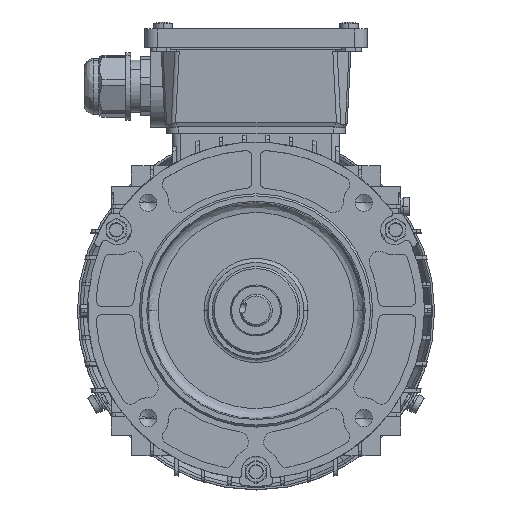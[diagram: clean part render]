
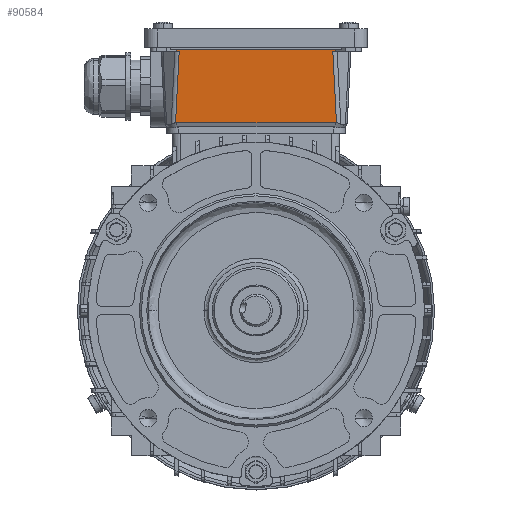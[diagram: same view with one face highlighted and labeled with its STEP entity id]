
A CAD part, top view. The second image highlights one B-rep face of the part: STEP entity #90584.
In plain terms, the highlighted planar face has unit normal (0, -0.05, 0.999).
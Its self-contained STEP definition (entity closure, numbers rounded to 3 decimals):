
#5028 = LINE ( 'NONE', #5106, #94640 ) ;
#5067 = DIRECTION ( 'NONE',  ( 1., 0., 0. ) ) ;
#5106 = CARTESIAN_POINT ( 'NONE',  ( -145.167, 147.911, 128.642 ) ) ;
#5433 = CARTESIAN_POINT ( 'NONE',  ( -119.239, 112.911, 126.892 ) ) ;
#5435 = CARTESIAN_POINT ( 'NONE',  ( -145.167, 112.911, 126.892 ) ) ;
#5462 = LINE ( 'NONE', #5435, #94777 ) ;
#5485 = DIRECTION ( 'NONE',  ( -1., 0., 0. ) ) ;
#5510 = CARTESIAN_POINT ( 'NONE',  ( -119.202, 112.911, 126.892 ) ) ;
#5513 = CARTESIAN_POINT ( 'NONE',  ( -119.276, 112.911, 126.892 ) ) ;
#5519 = CARTESIAN_POINT ( 'NONE',  ( -119.313, 112.913, 126.893 ) ) ;
#5531 = CARTESIAN_POINT ( 'NONE',  ( -40.595, 112.911, 126.892 ) ) ;
#5538 = CARTESIAN_POINT ( 'NONE',  ( -40.558, 112.911, 126.892 ) ) ;
#5583 = CARTESIAN_POINT ( 'NONE',  ( -40.521, 112.913, 126.893 ) ) ;
#5617 = CARTESIAN_POINT ( 'NONE',  ( -40.631, 112.911, 126.892 ) ) ;
#5800 = DIRECTION ( 'NONE',  ( 0.05, -0.998, -0.05 ) ) ;
#5803 = LINE ( 'NONE', #5806, #94912 ) ;
#5806 = CARTESIAN_POINT ( 'NONE',  ( -40.19, 106.29, 126.561 ) ) ;
#5821 = LINE ( 'NONE', #5828, #93227 ) ;
#5827 = DIRECTION ( 'NONE',  ( -0.05, -0.998, -0.05 ) ) ;
#5828 = CARTESIAN_POINT ( 'NONE',  ( -145.167, 147.911, 128.642 ) ) ;
#5832 = LINE ( 'NONE', #5849, #93202 ) ;
#5849 = CARTESIAN_POINT ( 'NONE',  ( -118.76, 148.888, 128.691 ) ) ;
#5876 = DIRECTION ( 'NONE',  ( 1., 0., 0. ) ) ;
#5884 = CARTESIAN_POINT ( 'NONE',  ( -41.025, 147.911, 128.642 ) ) ;
#5885 = DIRECTION ( 'NONE',  ( -0.05, 0.998, 0.05 ) ) ;
#5888 = LINE ( 'NONE', #5884, #93177 ) ;
#5914 = DIRECTION ( 'NONE',  ( 0.05, 0.998, 0.05 ) ) ;
#5928 = CARTESIAN_POINT ( 'NONE',  ( -114.203, 215.11, 132.002 ) ) ;
#5944 = LINE ( 'NONE', #5928, #93236 ) ;
#6339 = EDGE_CURVE ( 'NONE', #48078, #48110, #83442, .T. ) ;
#27620 = VECTOR ( 'NONE', #83475, 1000. ) ;
#48066 = VERTEX_POINT ( 'NONE', #62030 ) ;
#48078 = VERTEX_POINT ( 'NONE', #62088 ) ;
#48087 = VERTEX_POINT ( 'NONE', #62100 ) ;
#48110 = VERTEX_POINT ( 'NONE', #62080 ) ;
#48126 = VERTEX_POINT ( 'NONE', #62094 ) ;
#48137 = VERTEX_POINT ( 'NONE', #62110 ) ;
#48171 = VERTEX_POINT ( 'NONE', #62177 ) ;
#48175 = VERTEX_POINT ( 'NONE', #62200 ) ;
#48177 = VERTEX_POINT ( 'NONE', #62153 ) ;
#48178 = VERTEX_POINT ( 'NONE', #62159 ) ;
#49925 = EDGE_LOOP ( 'NONE', ( #114896, #115042, #114941, #114952, #114984, #114937, #114959, #114973, #114927, #114954 ) ) ;
#62030 = CARTESIAN_POINT ( 'NONE',  ( -119.313, 112.913, 126.893 ) ) ;
#62080 = CARTESIAN_POINT ( 'NONE',  ( -118.76, 148.888, 128.691 ) ) ;
#62088 = CARTESIAN_POINT ( 'NONE',  ( -41.074, 148.888, 128.691 ) ) ;
#62094 = CARTESIAN_POINT ( 'NONE',  ( -118.809, 147.911, 128.642 ) ) ;
#62100 = CARTESIAN_POINT ( 'NONE',  ( -119.202, 112.911, 126.892 ) ) ;
#62110 = CARTESIAN_POINT ( 'NONE',  ( -41.025, 147.911, 128.642 ) ) ;
#62153 = CARTESIAN_POINT ( 'NONE',  ( -40.631, 112.911, 126.892 ) ) ;
#62159 = CARTESIAN_POINT ( 'NONE',  ( -40.521, 112.913, 126.893 ) ) ;
#62177 = CARTESIAN_POINT ( 'NONE',  ( -42.271, 147.911, 128.642 ) ) ;
#62200 = CARTESIAN_POINT ( 'NONE',  ( -117.563, 147.911, 128.642 ) ) ;
#68708 = EDGE_CURVE ( 'NONE', #48171, #48137, #5028, .T. ) ;
#68778 = EDGE_CURVE ( 'NONE', #48177, #48087, #5462, .T. ) ;
#68789 = EDGE_CURVE ( 'NONE', #48087, #48066, #110359, .T. ) ;
#68802 = EDGE_CURVE ( 'NONE', #48177, #48178, #110391, .T. ) ;
#68870 = EDGE_CURVE ( 'NONE', #48171, #48178, #5803, .T. ) ;
#68895 = EDGE_CURVE ( 'NONE', #48110, #48126, #5832, .T. ) ;
#68901 = EDGE_CURVE ( 'NONE', #48126, #48175, #5821, .T. ) ;
#68911 = EDGE_CURVE ( 'NONE', #48137, #48078, #5888, .T. ) ;
#68919 = EDGE_CURVE ( 'NONE', #48066, #48175, #5944, .T. ) ;
#83442 = LINE ( 'NONE', #83448, #27620 ) ;
#83448 = CARTESIAN_POINT ( 'NONE',  ( -145.167, 148.888, 128.691 ) ) ;
#83475 = DIRECTION ( 'NONE',  ( -1., 0., 0. ) ) ;
#90584 = ADVANCED_FACE ( 'NONE', ( #113595 ), #113645, .T. ) ;
#93177 = VECTOR ( 'NONE', #5885, 1000. ) ;
#93202 = VECTOR ( 'NONE', #5827, 1000. ) ;
#93227 = VECTOR ( 'NONE', #5876, 1000. ) ;
#93236 = VECTOR ( 'NONE', #5914, 1000. ) ;
#94640 = VECTOR ( 'NONE', #5067, 1000. ) ;
#94777 = VECTOR ( 'NONE', #5485, 1000. ) ;
#94912 = VECTOR ( 'NONE', #5800, 1000. ) ;
#107257 = AXIS2_PLACEMENT_3D ( 'NONE', #113660, #113552, #113647 ) ;
#110359 =( BOUNDED_CURVE ( )  B_SPLINE_CURVE ( 3, ( #5510, #5433, #5513, #5519 ),
 .UNSPECIFIED., .F., .T. ) 
 B_SPLINE_CURVE_WITH_KNOTS ( ( 4, 4 ),
 ( 0.163, 0.18 ),
 .UNSPECIFIED. ) 
 CURVE ( )  GEOMETRIC_REPRESENTATION_ITEM ( )  RATIONAL_B_SPLINE_CURVE ( ( 1., 1., 1., 1. ) ) 
 REPRESENTATION_ITEM ( '' )  );
#110391 =( BOUNDED_CURVE ( )  B_SPLINE_CURVE ( 3, ( #5617, #5531, #5538, #5583 ),
 .UNSPECIFIED., .F., .T. ) 
 B_SPLINE_CURVE_WITH_KNOTS ( ( 4, 4 ),
 ( 3.305, 3.321 ),
 .UNSPECIFIED. ) 
 CURVE ( )  GEOMETRIC_REPRESENTATION_ITEM ( )  RATIONAL_B_SPLINE_CURVE ( ( 1., 1., 1., 1. ) ) 
 REPRESENTATION_ITEM ( '' )  );
#113552 = DIRECTION ( 'NONE',  ( 0., -0.05, 0.999 ) ) ;
#113595 = FACE_OUTER_BOUND ( 'NONE', #49925, .T. ) ;
#113645 = PLANE ( 'NONE',  #107257 ) ;
#113647 = DIRECTION ( 'NONE',  ( 0., -0.999, -0.05 ) ) ;
#113660 = CARTESIAN_POINT ( 'NONE',  ( -145.167, 216.655, 132.08 ) ) ;
#114896 = ORIENTED_EDGE ( 'NONE', *, *, #68789, .F. ) ;
#114927 = ORIENTED_EDGE ( 'NONE', *, *, #68901, .T. ) ;
#114937 = ORIENTED_EDGE ( 'NONE', *, *, #68911, .T. ) ;
#114941 = ORIENTED_EDGE ( 'NONE', *, *, #68802, .T. ) ;
#114952 = ORIENTED_EDGE ( 'NONE', *, *, #68870, .F. ) ;
#114954 = ORIENTED_EDGE ( 'NONE', *, *, #68919, .F. ) ;
#114959 = ORIENTED_EDGE ( 'NONE', *, *, #6339, .T. ) ;
#114973 = ORIENTED_EDGE ( 'NONE', *, *, #68895, .T. ) ;
#114984 = ORIENTED_EDGE ( 'NONE', *, *, #68708, .T. ) ;
#115042 = ORIENTED_EDGE ( 'NONE', *, *, #68778, .F. ) ;
